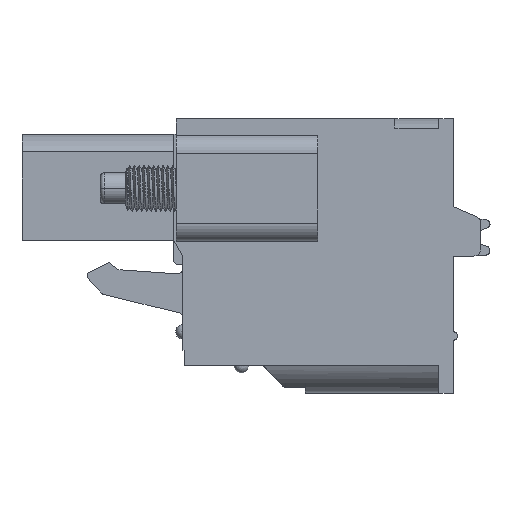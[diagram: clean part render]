
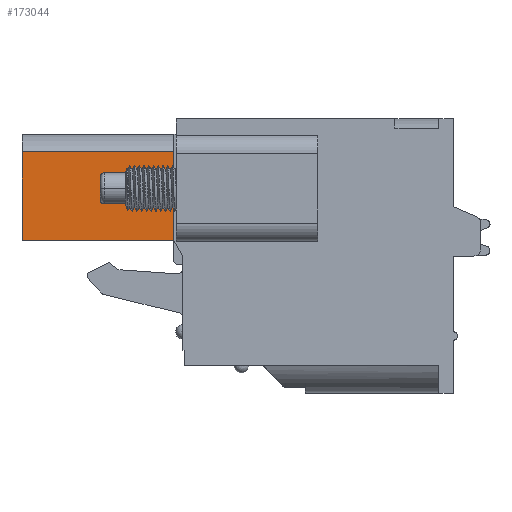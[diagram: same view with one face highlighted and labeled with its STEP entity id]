
A CAD part, left-side view. The second image highlights one B-rep face of the part: STEP entity #173044.
In plain terms, the highlighted planar face has unit normal (-1, 0, 0).
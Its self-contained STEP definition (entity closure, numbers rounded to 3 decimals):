
#173044 = ADVANCED_FACE('',(#173045),#173059,.F.);
#173045 = FACE_BOUND('',#173046,.F.);
#173046 = EDGE_LOOP('',(#173047,#173070,#173086,#173102));
#173047 = ORIENTED_EDGE('',*,*,#173048,.T.);
#173048 = EDGE_CURVE('',#173049,#173051,#173053,.T.);
#173049 = VERTEX_POINT('',#173050);
#173050 = CARTESIAN_POINT('',(-81.58,15.3,-3.));
#173051 = VERTEX_POINT('',#173052);
#173052 = CARTESIAN_POINT('',(-81.58,23.6,-3.));
#173053 = SURFACE_CURVE('',#173054,(#173058),.PCURVE_S1.);
#173054 = LINE('',#173055,#173056);
#173055 = CARTESIAN_POINT('',(-81.58,15.3,-3.));
#173056 = VECTOR('',#173057,1.);
#173057 = DIRECTION('',(0.,1.,0.));
#173058 = PCURVE('',#173059,#173064);
#173059 = PLANE('',#173060);
#173060 = AXIS2_PLACEMENT_3D('',#173061,#173062,#173063);
#173061 = CARTESIAN_POINT('',(-81.58,23.6,2.8));
#173062 = DIRECTION('',(1.,0.,0.));
#173063 = DIRECTION('',(0.,0.,-1.));
#173064 = DEFINITIONAL_REPRESENTATION('',(#173065),#173069);
#173065 = LINE('',#173066,#173067);
#173066 = CARTESIAN_POINT('',(5.8,-8.3));
#173067 = VECTOR('',#173068,1.);
#173068 = DIRECTION('',(0.,1.));
#173069 = ( GEOMETRIC_REPRESENTATION_CONTEXT(2) 
PARAMETRIC_REPRESENTATION_CONTEXT() REPRESENTATION_CONTEXT('2D SPACE',''
  ) );
#173070 = ORIENTED_EDGE('',*,*,#173071,.T.);
#173071 = EDGE_CURVE('',#173051,#173072,#173074,.T.);
#173072 = VERTEX_POINT('',#173073);
#173073 = CARTESIAN_POINT('',(-81.58,23.6,1.85));
#173074 = SURFACE_CURVE('',#173075,(#173079),.PCURVE_S1.);
#173075 = LINE('',#173076,#173077);
#173076 = CARTESIAN_POINT('',(-81.58,23.6,-3.));
#173077 = VECTOR('',#173078,1.);
#173078 = DIRECTION('',(0.,0.,1.));
#173079 = PCURVE('',#173059,#173080);
#173080 = DEFINITIONAL_REPRESENTATION('',(#173081),#173085);
#173081 = LINE('',#173082,#173083);
#173082 = CARTESIAN_POINT('',(5.8,0.));
#173083 = VECTOR('',#173084,1.);
#173084 = DIRECTION('',(-1.,0.));
#173085 = ( GEOMETRIC_REPRESENTATION_CONTEXT(2) 
PARAMETRIC_REPRESENTATION_CONTEXT() REPRESENTATION_CONTEXT('2D SPACE',''
  ) );
#173086 = ORIENTED_EDGE('',*,*,#173087,.F.);
#173087 = EDGE_CURVE('',#173088,#173072,#173090,.T.);
#173088 = VERTEX_POINT('',#173089);
#173089 = CARTESIAN_POINT('',(-81.58,15.3,1.85));
#173090 = SURFACE_CURVE('',#173091,(#173095),.PCURVE_S1.);
#173091 = LINE('',#173092,#173093);
#173092 = CARTESIAN_POINT('',(-81.58,15.3,1.85));
#173093 = VECTOR('',#173094,1.);
#173094 = DIRECTION('',(0.,1.,0.));
#173095 = PCURVE('',#173059,#173096);
#173096 = DEFINITIONAL_REPRESENTATION('',(#173097),#173101);
#173097 = LINE('',#173098,#173099);
#173098 = CARTESIAN_POINT('',(0.95,-8.3));
#173099 = VECTOR('',#173100,1.);
#173100 = DIRECTION('',(0.,1.));
#173101 = ( GEOMETRIC_REPRESENTATION_CONTEXT(2) 
PARAMETRIC_REPRESENTATION_CONTEXT() REPRESENTATION_CONTEXT('2D SPACE',''
  ) );
#173102 = ORIENTED_EDGE('',*,*,#173103,.T.);
#173103 = EDGE_CURVE('',#173088,#173049,#173104,.T.);
#173104 = SURFACE_CURVE('',#173105,(#173109),.PCURVE_S1.);
#173105 = LINE('',#173106,#173107);
#173106 = CARTESIAN_POINT('',(-81.58,15.3,1.85));
#173107 = VECTOR('',#173108,1.);
#173108 = DIRECTION('',(0.,0.,-1.));
#173109 = PCURVE('',#173059,#173110);
#173110 = DEFINITIONAL_REPRESENTATION('',(#173111),#173115);
#173111 = LINE('',#173112,#173113);
#173112 = CARTESIAN_POINT('',(0.95,-8.3));
#173113 = VECTOR('',#173114,1.);
#173114 = DIRECTION('',(1.,0.));
#173115 = ( GEOMETRIC_REPRESENTATION_CONTEXT(2) 
PARAMETRIC_REPRESENTATION_CONTEXT() REPRESENTATION_CONTEXT('2D SPACE',''
  ) );
